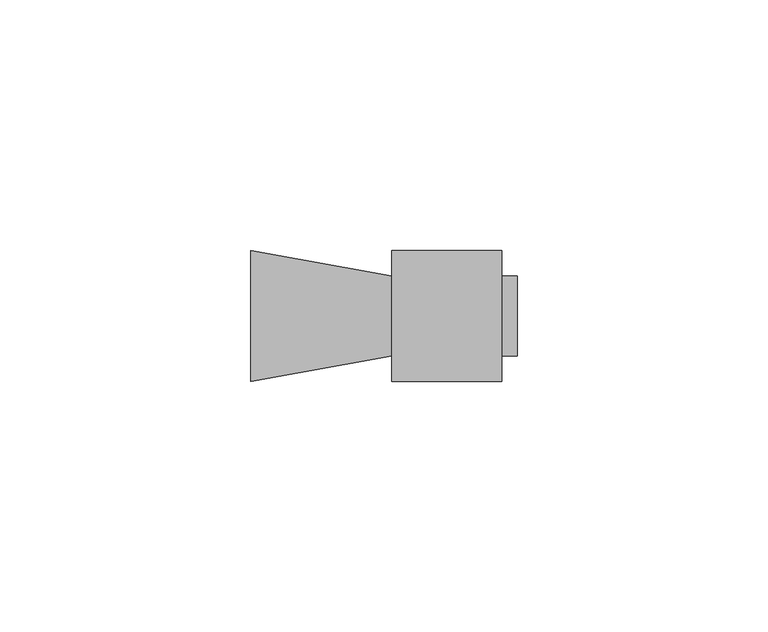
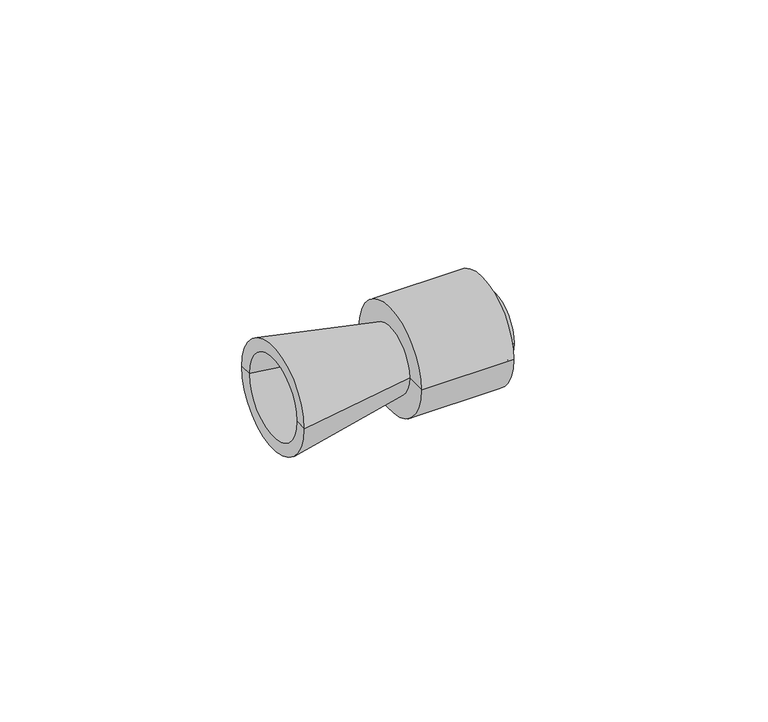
"""IFC4 building model written with IfcOpenShell, lengths in millimetres: cable carrier fitting geometry, КНС_ПереходникАрмированнаяТрубаЖесткаяТруба_IP67_DKC : Коробка."""

import ifcopenshell
import ifcopenshell.guid

model = None  # the IFC model being written
_history = None  # IfcOwnerHistory: only IFC2X3 demands one
_inside = {}  # id of a spatial element -> (the spatial element, [elements in it])
_under = {}  # id of a project, library or spatial element -> (it, [spatial elements below it])
_declared = {}  # id of a project -> (the project, [libraries it declares])
_typed = {}  # id of a type object -> (the type object, [elements of that type])
_made_of = {}  # id of a material, layer set ... -> (it, [elements and type objects made of it])


def new_model(schema):
    """Start an empty IFC model of exactly this schema.

    Asked for "IFC4X3", IfcOpenShell would pick the latest addendum, in which some entities
    have other attributes; the version numbers below select the first issue.
    IFC2X3 requires an IfcOwnerHistory on every rooted entity: one is made here for all.
    """
    global model, _history
    if schema == "IFC4X3":
        model = ifcopenshell.file(schema_version=(4, 3, 0, 0))
    else:
        model = ifcopenshell.file(schema=schema)
    _inside.clear()
    _under.clear()
    _declared.clear()
    _typed.clear()
    _made_of.clear()
    _history = None
    if model.schema == "IFC2X3":
        org = make("IfcOrganization", Name="unknown")
        user = make(
            "IfcPersonAndOrganization",
            ThePerson=make("IfcPerson", FamilyName="unknown"),
            TheOrganization=org,
        )
        app = make(
            "IfcApplication",
            ApplicationDeveloper=org,
            Version="unknown",
            ApplicationFullName="unknown",
            ApplicationIdentifier="unknown",
        )
        _history = make(
            "IfcOwnerHistory",
            OwningUser=user,
            OwningApplication=app,
            ChangeAction="ADDED",
            CreationDate=0,
        )
    return model


def make(cls, **values):
    """One entity of the class cls with the attributes given. An attribute that is None is left unset."""
    return model.create_entity(
        cls, **{name: value for name, value in values.items() if value is not None}
    )


def rooted(cls, **values):
    """An entity with a GlobalId (a new one), such as an element, a storey or a relation."""
    return make(cls, GlobalId=ifcopenshell.guid.new(), OwnerHistory=_history, **values)


def si_unit(unit_type, name, prefix=None):
    """IfcSIUnit, for example si_unit("LENGTHUNIT", "METRE", prefix="MILLI")."""
    return make("IfcSIUnit", UnitType=unit_type, Prefix=prefix, Name=name)


def assignment(units):
    """IfcUnitAssignment: the units of a project."""
    return None if units is None else make("IfcUnitAssignment", Units=units)


def point(xyz):
    """IfcCartesianPoint."""
    return None if xyz is None else make("IfcCartesianPoint", Coordinates=xyz)


def direction(xyz):
    """IfcDirection."""
    return None if xyz is None else make("IfcDirection", DirectionRatios=xyz)


def frame(location, z_axis=None, x_axis=None):
    """IfcAxis2Placement3D, a coordinate frame: its origin and axes. An axis left out is left unset."""
    return make(
        "IfcAxis2Placement3D",
        Location=point(location),
        Axis=direction(z_axis),
        RefDirection=direction(x_axis),
    )


def origin():
    """The frame at (0, 0, 0) with its axes left unset."""
    return frame((0.0, 0.0, 0.0))


def place(relative_to, where):
    """IfcLocalPlacement: puts the frame where relative to a parent placement (None: the world)."""
    return make(
        "IfcLocalPlacement", PlacementRelTo=relative_to, RelativePlacement=where
    )


def context(
    kind, dimensions, precision=None, world=None, true_north=None, identifier=None
):
    """IfcGeometricRepresentationContext, for example the 3D "Model" context."""
    return make(
        "IfcGeometricRepresentationContext",
        ContextIdentifier=identifier,
        ContextType=kind,
        CoordinateSpaceDimension=dimensions,
        Precision=precision,
        WorldCoordinateSystem=world,
        TrueNorth=true_north,
    )


def project(units=None, contexts=None):
    """IfcProject with its units and contexts."""
    return rooted(
        "IfcProject",
        Name="project",
        RepresentationContexts=contexts,
        UnitsInContext=assignment(units),
    )


def spatial(cls, under=None, at=None, **own):
    """A site, building, storey or space (cls), placed at a placement, below another one or the project."""
    s = rooted(cls, ObjectPlacement=at, **own)
    if under is not None:
        _under.setdefault(under.id(), (under, []))[1].append(s)
    return s


def polyline(points):
    """IfcPolyline through the points."""
    return make("IfcPolyline", Points=[point(p) for p in points])


def circle_curve(where, radius):
    """IfcCircle in the frame where."""
    return make("IfcCircle", Position=where, Radius=radius)


def shape(context_of_items, identifier, shape_type, items):
    """IfcShapeRepresentation: the items that make up one representation, for example the "Body"."""
    return make(
        "IfcShapeRepresentation",
        ContextOfItems=context_of_items,
        RepresentationIdentifier=identifier,
        RepresentationType=shape_type,
        Items=items,
    )


def source(mapping_origin, context_of_items, identifier, shape_type, items):
    """IfcRepresentationMap: a shape defined once, which mapped items show again and again."""
    return make(
        "IfcRepresentationMap",
        MappingOrigin=mapping_origin,
        MappedRepresentation=shape(context_of_items, identifier, shape_type, items),
    )


def transform(
    local_origin,
    x_axis=None,
    y_axis=None,
    z_axis=None,
    scale=None,
    scale2=None,
    scale3=None,
    uniform=True,
):
    """IfcCartesianTransformationOperator3D, or its non-uniform kind. x_axis, y_axis, z_axis: its Axis1, 2, 3."""
    if uniform:
        return make(
            "IfcCartesianTransformationOperator3D",
            Axis1=direction(x_axis),
            Axis2=direction(y_axis),
            LocalOrigin=point(local_origin),
            Scale=scale,
            Axis3=direction(z_axis),
        )
    return make(
        "IfcCartesianTransformationOperator3DnonUniform",
        Axis1=direction(x_axis),
        Axis2=direction(y_axis),
        LocalOrigin=point(local_origin),
        Scale=scale,
        Axis3=direction(z_axis),
        Scale2=scale2,
        Scale3=scale3,
    )


def mapped(mapping_source, mapping_target):
    """IfcMappedItem: shows the shape of a source again, moved by a transform."""
    return make(
        "IfcMappedItem", MappingSource=mapping_source, MappingTarget=mapping_target
    )


def made_of(thing, what):
    """Note that an element or type object is made of a material, layer set ...; save() writes the relation."""
    if what is not None:
        _made_of.setdefault(what.id(), (what, []))[1].append(thing)
    return thing


def element(
    cls,
    number,
    at=None,
    inside=None,
    cuts=None,
    type_object=None,
    material=None,
    context=None,
    identifier="Body",
    shape_type=None,
    held_by="IfcProductDefinitionShape",
    body=None,
    shapes=None,
    **own,
):
    """One element of the class cls, such as IfcWall. Its Tag is "e" and its number.

    at: its placement. inside: the storey or other place that contains it. cuts: it is an
    opening in that element (IfcRelVoidsElement). A single representation is given by context,
    identifier, shape_type and body (its items); several are given by shapes. held_by: the class
    of the entity that holds the representations. save() writes the other relations.
    """
    e = rooted(cls, Tag="e%d" % number, ObjectPlacement=at, **own)
    if body is not None:
        shapes = [shape(context, identifier, shape_type, body)]
    if shapes is not None:
        e.Representation = make(held_by, Representations=shapes)
    if inside is not None:
        _inside.setdefault(inside.id(), (inside, []))[1].append(e)
    if cuts is not None:
        rooted(
            "IfcRelVoidsElement", RelatingBuildingElement=cuts, RelatedOpeningElement=e
        )
    if type_object is not None:
        _typed.setdefault(type_object.id(), (type_object, []))[1].append(e)
    return made_of(e, material)


def aggregate(whole, parts):
    """IfcRelAggregates: a whole, such as a stair, and the parts it consists of."""
    return rooted("IfcRelAggregates", RelatingObject=whole, RelatedObjects=parts)


def save(model, path):
    """Write the relations noted so far, then the file.

    IfcRelAggregates (storeys below a building ...), IfcRelContainedInSpatialStructure (elements
    in a storey), IfcRelDefinesByType, IfcRelAssociatesMaterial and IfcRelDeclares: one each for
    every whole, place, type object, material and project.
    """
    for whole, parts in _under.values():
        aggregate(whole, parts)
    for where, things in _inside.values():
        rooted(
            "IfcRelContainedInSpatialStructure",
            RelatedElements=things,
            RelatingStructure=where,
        )
    for kind, things in _typed.values():
        rooted("IfcRelDefinesByType", RelatedObjects=things, RelatingType=kind)
    for what, things in _made_of.values():
        rooted("IfcRelAssociatesMaterial", RelatedObjects=things, RelatingMaterial=what)
    for by, libraries in _declared.values():
        rooted("IfcRelDeclares", RelatingContext=by, RelatedDefinitions=libraries)
    model.write(path)


def plane_surface(at):
    """IfcPlane: the flat surface through the origin of the frame at, square to its z axis."""
    return make("IfcPlane", Position=at)


def cylinder_surface(at, radius):
    """IfcCylindricalSurface: all points at the distance radius from the z axis of the frame at."""
    return make("IfcCylindricalSurface", Position=at, Radius=radius)


def revolved_surface(curve, axis_point, axis_direction):
    """IfcSurfaceOfRevolution: the curve turned about the line through axis_point along axis_direction."""
    return make(
        "IfcSurfaceOfRevolution",
        SweptCurve=make("IfcArbitraryOpenProfileDef", ProfileType="CURVE", Curve=curve),
        AxisPosition=make("IfcAxis1Placement", Location=point(axis_point), Axis=direction(axis_direction)),
    )


def advanced_brep(points, edges, surfaces, faces):
    """IfcAdvancedBrep: a solid bounded by faces that lie on surfaces and meet in shared edges.

    An edge is (start, end): straight between two places in points (the first is 0);
    or (start, end, curve); or (start, end, curve, False) where it runs against its curve.
    A face is (place in surfaces, loops), or (place, loops, False) where it looks against
    its surface's normal. A loop lists edges by number (the first is 1), with a minus sign
    where the edge is run from its end to its start. The first loop is the outer one.
    """
    corners = [point(p) for p in points]
    vertices = [make("IfcVertexPoint", VertexGeometry=c) for c in corners]
    made = []
    for start, end, *more in edges:
        made.append(
            make(
                "IfcEdgeCurve",
                EdgeStart=vertices[start],
                EdgeEnd=vertices[end],
                EdgeGeometry=more[0] if more else make("IfcPolyline", Points=[corners[start], corners[end]]),
                SameSense=more[1] if len(more) > 1 else True,
            )
        )
    hull = []
    for where, loops, *sense in faces:
        bounds = []
        for j, loop in enumerate(loops):
            ring = [make("IfcOrientedEdge", EdgeElement=made[abs(k) - 1], Orientation=k > 0) for k in loop]
            bounds.append(
                make(
                    "IfcFaceOuterBound" if j == 0 else "IfcFaceBound",
                    Bound=make("IfcEdgeLoop", EdgeList=ring),
                    Orientation=True,
                )
            )
        hull.append(make("IfcAdvancedFace", Bounds=bounds, FaceSurface=surfaces[where], SameSense=sense[0] if sense else True))
    return make("IfcAdvancedBrep", Outer=make("IfcClosedShell", CfsFaces=hull))


def cable_carrier_fitting_a7bed1c5(model_context):
    return source(origin(), model_context, "Body", "AdvancedBrep", [
        advanced_brep(
        [(-28.0, -13.0, 0.0), (-28.0, 13.0, 0.0), (0.0, 8.0, 0.0), (0.0, -8.0, 0.0), (-28.0, -9.9525437, 0.0), (-28.0, 9.9525437, 0.0), (0.0, -4.9525437, 0.0), (0.0, 4.9525437, 0.0)],
        [
            (0, 1, circle_curve(frame((-28.0, 0.0, 0.0), z_axis=(1.0, 0.0, 0.0), x_axis=(0.0, 1.0, 0.0)), 13.0)),
            (1, 2),
            (2, 3, circle_curve(frame((0.0, 0.0, 0.0), z_axis=(-1.0, 0.0, 0.0), x_axis=(0.0, 1.0, 0.0)), 8.0)),
            (3, 0),
            (1, 0, circle_curve(frame((-28.0, 0.0, 0.0), z_axis=(1.0, 0.0, 0.0), x_axis=(0.0, 1.0, 0.0)), 13.0)),
            (3, 2, circle_curve(frame((0.0, 0.0, 0.0), z_axis=(-1.0, 0.0, 0.0), x_axis=(0.0, 1.0, 0.0)), 8.0)),
            (4, 5, circle_curve(frame((-28.0, 0.0, 0.0), z_axis=(1.0, 0.0, 0.0), x_axis=(0.0, 1.0, 0.0)), 9.9525437)),
            (5, 1),
            (0, 4),
            (5, 4, circle_curve(frame((-28.0, 0.0, 0.0), z_axis=(1.0, 0.0, 0.0), x_axis=(0.0, 1.0, 0.0)), 9.9525437)),
            (6, 7, circle_curve(frame((0.0, 0.0, 0.0), z_axis=(1.0, 0.0, 0.0), x_axis=(0.0, 1.0, 0.0)), 4.9525437)),
            (7, 5),
            (4, 6),
            (7, 6, circle_curve(frame((0.0, 0.0, 0.0), z_axis=(1.0, 0.0, 0.0), x_axis=(0.0, 1.0, 0.0)), 4.9525437)),
            (2, 7),
            (6, 3),
        ],
        [
            revolved_surface(polyline([(0.0, 8.0, 0.0), (-28.0, 13.0, 0.0)]), (1516.0, 0.0, 0.0), (-1.0, 0.0, 0.0)),
            plane_surface(frame((-28.0, 0.0, 0.0), z_axis=(-1.0, 0.0, 0.0), x_axis=(0.0, 1.0, 0.0))),
            revolved_surface(polyline([(-28.0, 9.9525437, 0.0), (0.0, 4.9525437, 0.0)]), (1516.0, 0.0, 0.0), (-1.0, 0.0, 0.0)),
            plane_surface(frame((0.0, 0.0, 0.0), z_axis=(1.0, 0.0, 0.0), x_axis=(0.0, 1.0, 0.0))),
        ],
        [
            (0, [[1, 2, 3, 4]]),
            (0, [[5, -4, 6, -2]]),
            (1, [[7, 8, -1, 9]]),
            (1, [[10, -9, -5, -8]]),
            (2, [[11, 12, -7, 13]]),
            (2, [[14, -13, -10, -12]]),
            (3, [[-3, 15, -11, 16]]),
            (3, [[-6, -16, -14, -15]]),
        ],
    ),
        advanced_brep(
        [(3.0, -6.5, 0.0), (3.0, 6.5, 0.0), (3.0, 0.0, 0.0), (25.0, -6.5, 0.0), (25.0, 6.5, 0.0), (25.0, -8.0, 0.0), (25.0, 8.0, 0.0), (3.0, -8.0, 0.0), (3.0, 8.0, 0.0), (3.0, -10.2376891, 0.0), (3.0, 10.2376891, 0.0), (22.0, -10.2376891, 0.0), (22.0, 10.2376891, 0.0), (22.0, -13.0, 0.0), (22.0, 13.0, 0.0), (0.0, -13.0, 0.0), (0.0, 13.0, 0.0), (0.0, 0.0, 0.0)],
        [
            (0, 1, circle_curve(frame((3.0, 0.0, 0.0), z_axis=(1.0, 0.0, 0.0), x_axis=(0.0, 1.0, 0.0)), 6.5)),
            (1, 2),
            (2, 0),
            (1, 0, circle_curve(frame((3.0, 0.0, 0.0), z_axis=(1.0, 0.0, 0.0), x_axis=(0.0, 1.0, 0.0)), 6.5)),
            (3, 4, circle_curve(frame((25.0, 0.0, 0.0), z_axis=(1.0, 0.0, 0.0), x_axis=(0.0, 1.0, 0.0)), 6.5)),
            (4, 1),
            (0, 3),
            (4, 3, circle_curve(frame((25.0, 0.0, 0.0), z_axis=(1.0, 0.0, 0.0), x_axis=(0.0, 1.0, 0.0)), 6.5)),
            (5, 6, circle_curve(frame((25.0, 0.0, 0.0), z_axis=(1.0, 0.0, 0.0), x_axis=(0.0, 1.0, 0.0)), 8.0)),
            (6, 4),
            (3, 5),
            (6, 5, circle_curve(frame((25.0, 0.0, 0.0), z_axis=(1.0, 0.0, 0.0), x_axis=(0.0, 1.0, 0.0)), 8.0)),
            (7, 8, circle_curve(frame((3.0, 0.0, 0.0), z_axis=(1.0, 0.0, 0.0), x_axis=(0.0, 1.0, 0.0)), 8.0)),
            (8, 6),
            (5, 7),
            (8, 7, circle_curve(frame((3.0, 0.0, 0.0), z_axis=(1.0, 0.0, 0.0), x_axis=(0.0, 1.0, 0.0)), 8.0)),
            (9, 10, circle_curve(frame((3.0, 0.0, 0.0), z_axis=(1.0, 0.0, 0.0), x_axis=(0.0, 1.0, 0.0)), 10.2376891)),
            (10, 8),
            (7, 9),
            (10, 9, circle_curve(frame((3.0, 0.0, 0.0), z_axis=(1.0, 0.0, 0.0), x_axis=(0.0, 1.0, 0.0)), 10.2376891)),
            (11, 12, circle_curve(frame((22.0, 0.0, 0.0), z_axis=(1.0, 0.0, 0.0), x_axis=(0.0, 1.0, 0.0)), 10.2376891)),
            (12, 10),
            (9, 11),
            (12, 11, circle_curve(frame((22.0, 0.0, 0.0), z_axis=(1.0, 0.0, 0.0), x_axis=(0.0, 1.0, 0.0)), 10.2376891)),
            (13, 14, circle_curve(frame((22.0, 0.0, 0.0), z_axis=(1.0, 0.0, 0.0), x_axis=(0.0, 1.0, 0.0)), 13.0)),
            (14, 12),
            (11, 13),
            (14, 13, circle_curve(frame((22.0, 0.0, 0.0), z_axis=(1.0, 0.0, 0.0), x_axis=(0.0, 1.0, 0.0)), 13.0)),
            (15, 16, circle_curve(frame((0.0, 0.0, 0.0), z_axis=(1.0, 0.0, 0.0), x_axis=(0.0, 1.0, 0.0)), 13.0)),
            (16, 14),
            (13, 15),
            (16, 15, circle_curve(frame((0.0, 0.0, 0.0), z_axis=(1.0, 0.0, 0.0), x_axis=(0.0, 1.0, 0.0)), 13.0)),
            (17, 16),
            (15, 17),
        ],
        [
            plane_surface(frame((3.0, 0.0, 0.0), z_axis=(1.0, 0.0, 0.0), x_axis=(0.0, 1.0, 0.0))),
            revolved_surface(polyline([(3.0, 6.5, 0.0), (25.0, 6.5, 0.0)]), (1520.5, 0.0, 0.0), (-1.0, 0.0, 0.0)),
            plane_surface(frame((25.0, 0.0, 0.0), z_axis=(1.0, 0.0, 0.0), x_axis=(0.0, 1.0, 0.0))),
            cylinder_surface(frame((1520.5, 0.0, 0.0), z_axis=(-1.0, 0.0, 0.0), x_axis=(0.0, 1.0, 0.0)), 8.0),
            revolved_surface(polyline([(3.0, 10.2376891, 0.0), (22.0, 10.2376891, 0.0)]), (1520.5, 0.0, 0.0), (-1.0, 0.0, 0.0)),
            plane_surface(frame((22.0, 0.0, 0.0), z_axis=(1.0, 0.0, 0.0), x_axis=(0.0, 1.0, 0.0))),
            cylinder_surface(frame((1520.5, 0.0, 0.0), z_axis=(-1.0, 0.0, 0.0), x_axis=(0.0, 1.0, 0.0)), 13.0),
            plane_surface(frame((0.0, 0.0, 0.0), z_axis=(-1.0, 0.0, 0.0), x_axis=(0.0, 1.0, 0.0))),
        ],
        [
            (0, [[1, 2, 3]]),
            (0, [[4, -3, -2]]),
            (1, [[5, 6, -1, 7]]),
            (1, [[8, -7, -4, -6]]),
            (2, [[9, 10, -5, 11]]),
            (2, [[12, -11, -8, -10]]),
            (3, [[13, 14, -9, 15]]),
            (3, [[16, -15, -12, -14]]),
            (0, [[17, 18, -13, 19]]),
            (0, [[20, -19, -16, -18]]),
            (4, [[21, 22, -17, 23]]),
            (4, [[24, -23, -20, -22]]),
            (5, [[25, 26, -21, 27]]),
            (5, [[28, -27, -24, -26]]),
            (6, [[29, 30, -25, 31]]),
            (6, [[32, -31, -28, -30]]),
            (7, [[33, -29, 34]]),
            (7, [[-34, -32, -33]]),
        ],
    ),
    ])


if __name__ == "__main__":
    model = new_model("IFC4")
    model_context = context("Model", 3, world=origin())
    ifc_project = project(units=[si_unit("LENGTHUNIT", "METRE", prefix="MILLI")], contexts=[model_context])
    site = spatial("IfcSite", under=ifc_project)
    building = spatial("IfcBuilding", under=site)
    placement = place(None, origin())
    cable_carrier_fitting_shape = cable_carrier_fitting_a7bed1c5(model_context)
    element("IfcCableCarrierFitting", 1, ObjectType="КНС_ПереходникАрмированнаяТрубаЖесткаяТруба_IP67_DKC : Коробка", at=placement, inside=building, context=model_context, shape_type="MappedRepresentation", body=[
        mapped(cable_carrier_fitting_shape, transform((0.0, 0.0, 0.0), x_axis=(1.0, 0.0, 0.0), y_axis=(0.0, 1.0, 0.0), z_axis=(0.0, 0.0, 1.0))),
    ])
    save(model, "model.ifc")
